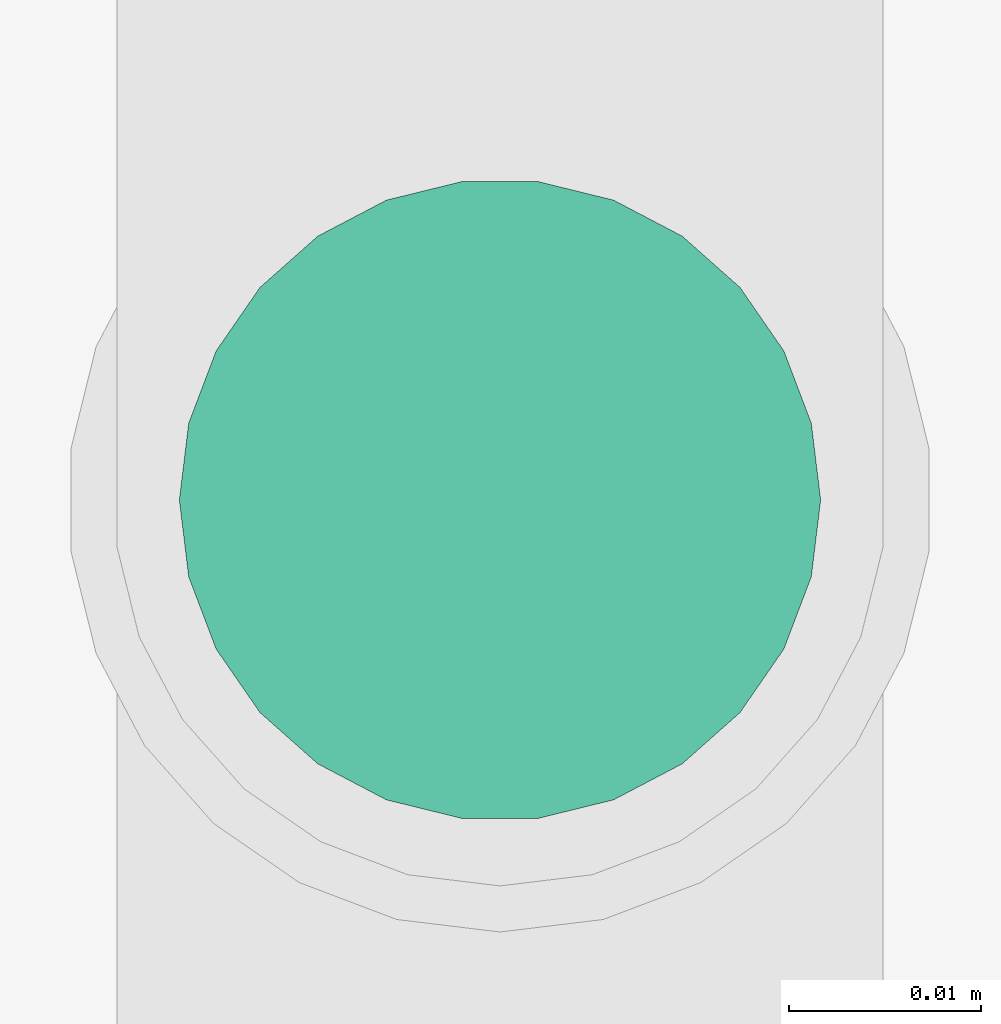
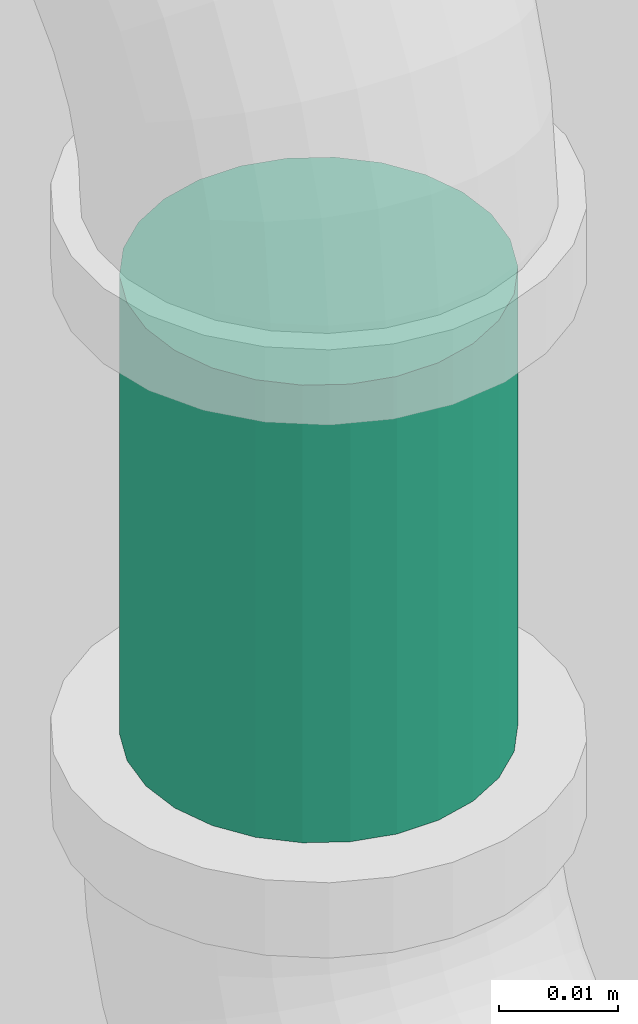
# One storey, part 98 of 108: 1 pipe segment.
"""IFC4 building model written with IfcOpenShell, lengths in feet."""

from ifc_helpers import new_model, entity, si_unit, converted_unit, derived_unit, direction, frame, origin, origin_2d_with_axis, place, context, subcontext, project, spatial, circle, extrude, type_object, element, save


model = new_model("IFC4")

# Units and contexts
model_context = context("Model", 3, precision=0.0001, world=origin(), true_north=direction((6.12303176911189e-17, 1.0)))
body_context = subcontext(model_context, "Body", "Model", "MODEL_VIEW")
ifc_project = project(units=[converted_unit("LENGTHUNIT", "FOOT", entity("IfcRatioMeasure", 0.3048), si_unit("LENGTHUNIT", "METRE"), dimensions=[1, 0, 0, 0, 0, 0, 0]), converted_unit("AREAUNIT", "SQUARE FOOT", entity("IfcRatioMeasure", 0.09290304), si_unit("AREAUNIT", "SQUARE_METRE"), dimensions=[2, 0, 0, 0, 0, 0, 0]), converted_unit("VOLUMEUNIT", "CUBIC FOOT", entity("IfcRatioMeasure", 0.028316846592), si_unit("VOLUMEUNIT", "CUBIC_METRE"), dimensions=[3, 0, 0, 0, 0, 0, 0]), converted_unit("PLANEANGLEUNIT", "DEGREE", entity("IfcRatioMeasure", 0.0174532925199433), si_unit("PLANEANGLEUNIT", "RADIAN"), dimensions=[0, 0, 0, 0, 0, 0, 0]), si_unit("MASSUNIT", "GRAM", prefix="KILO"), derived_unit("MASSDENSITYUNIT", [(si_unit("MASSUNIT", "GRAM", prefix="KILO"), 1), (si_unit("LENGTHUNIT", "METRE"), -3)]), si_unit("TIMEUNIT", "SECOND"), si_unit("FREQUENCYUNIT", "HERTZ"), si_unit("THERMODYNAMICTEMPERATUREUNIT", "DEGREE_CELSIUS"), derived_unit("THERMALTRANSMITTANCEUNIT", [(si_unit("MASSUNIT", "GRAM", prefix="KILO"), 1), (si_unit("THERMODYNAMICTEMPERATUREUNIT", "KELVIN"), -1), (si_unit("TIMEUNIT", "SECOND"), -3)]), derived_unit("VOLUMETRICFLOWRATEUNIT", [(si_unit("LENGTHUNIT", "METRE"), 3), (si_unit("TIMEUNIT", "SECOND"), -1)]), si_unit("ELECTRICCURRENTUNIT", "AMPERE"), si_unit("ELECTRICVOLTAGEUNIT", "VOLT"), si_unit("POWERUNIT", "WATT"), si_unit("FORCEUNIT", "NEWTON"), si_unit("ILLUMINANCEUNIT", "LUX"), si_unit("LUMINOUSFLUXUNIT", "LUMEN"), si_unit("LUMINOUSINTENSITYUNIT", "CANDELA"), derived_unit("USERDEFINED", [(si_unit("MASSUNIT", "GRAM", prefix="KILO"), -1), (si_unit("LENGTHUNIT", "METRE"), -2), (si_unit("TIMEUNIT", "SECOND"), 3), (si_unit("LUMINOUSFLUXUNIT", "LUMEN"), 1)]), derived_unit("LINEARVELOCITYUNIT", [(si_unit("LENGTHUNIT", "METRE"), 1), (si_unit("TIMEUNIT", "SECOND"), -1)]), si_unit("PRESSUREUNIT", "PASCAL"), derived_unit("USERDEFINED", [(si_unit("LENGTHUNIT", "METRE"), -2), (si_unit("MASSUNIT", "GRAM", prefix="KILO"), 1), (si_unit("TIMEUNIT", "SECOND"), -2)])], contexts=[model_context])

# Site, building, storey
site_placement = place(None, origin())
site = spatial("IfcSite", under=ifc_project, at=site_placement, Name="Default", CompositionType="ELEMENT")
building_placement = place(site_placement, origin())
building = spatial("IfcBuilding", under=site, at=building_placement, CompositionType="ELEMENT")
storey_placement = place(building_placement, frame((0.0, 0.0, 168.0)))
storey = spatial("IfcBuildingStorey", under=building, at=storey_placement, Name="Level 15", CompositionType="ELEMENT", Elevation=168.0)

# Pipe segment
pipe_segment_type = type_object("IfcPipeSegmentType", Name="Pipe Types:Fire Prot Sched 10 Main", PredefinedType="NOTDEFINED")
pipe_segment_placement = place(storey_placement, frame((-33.5674577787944, 8.53723040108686, 8.72537760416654)))
element("IfcPipeSegment", 1, at=pipe_segment_placement, inside=storey, type_object=pipe_segment_type, Name="Pipe Types:Fire Prot Sched 10 Main", ObjectType="Pipe Types:Fire Prot Sched 10 Main", PredefinedType="NOTDEFINED", context=body_context, shape_type="SweptSolid", body=[
    extrude(circle(Radius=0.0547916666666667, at=origin_2d_with_axis()), frame((0.0600254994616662, 0.0600254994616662, 0.0), z_axis=(0.0, 0.0, 1.0), x_axis=(-1.0, 0.0, 0.0)), (0.0, 0.0, 1.0), 0.153411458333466),
])

save(model, "model.ifc")
